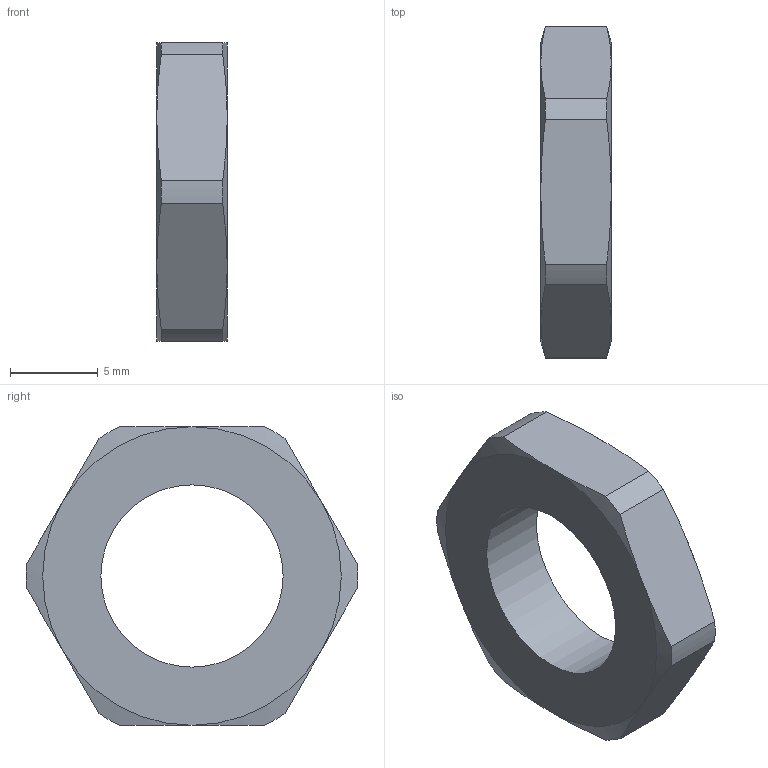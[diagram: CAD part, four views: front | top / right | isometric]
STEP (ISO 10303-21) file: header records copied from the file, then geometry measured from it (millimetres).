
FILE_DESCRIPTION( ( 'STEP AP203' ), '1' );
FILE_NAME( 'C:/Temp/Ganter_Step_05_03_2020/data/3_1/gn909_5/Flat St. Steel-Hexagonal nut GN 909.5-M12x1,5.stp', '2020-03-12T09:07:22', ( 'License CC BY-ND 4.0' ), ( 'CADENAS' ), ' ', 'PARTsolutions', ' ' );
FILE_SCHEMA( ( 'CONFIG_CONTROL_DESIGN' ) );
Length unit declared in the file: millimetre
Products named in the file (1): _Flat St. Steel-Hexagonal nut GN 909.5-M12x1,5
Bounding box: 4 x 18.89 x 17 mm (x, y, z)
Volume: 652.9 mm3; surface area: 678.3 mm2
Topology: 1 solids, 1 shells, 27 faces, 63 edges, 38 vertices
Faces by surface type: cone 12, plane 8, cylinder 7
Full cylindrical faces by diameter (mm): 10.376 x1
Entity records: 842 total; most frequent: CARTESIAN_POINT 208, ORIENTED_EDGE 124, DIRECTION 120, EDGE_CURVE 62, AXIS2_PLACEMENT_3D 54, VERTEX_POINT 38, EDGE_LOOP 30, FACE_OUTER_BOUND 28
